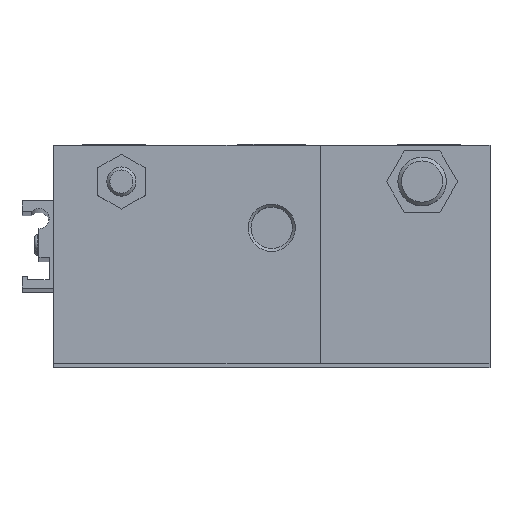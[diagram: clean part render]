
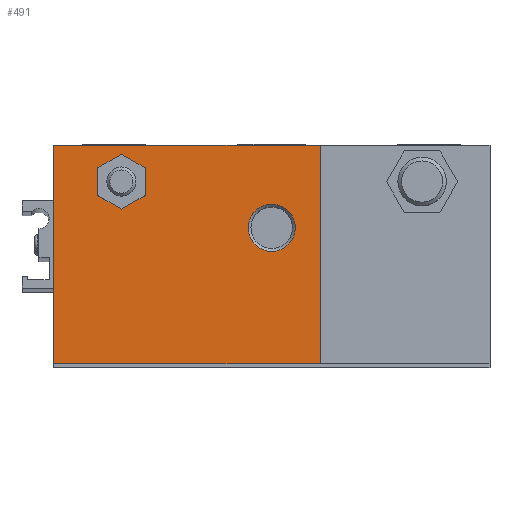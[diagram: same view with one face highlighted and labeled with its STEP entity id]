
A CAD part, top view. The second image highlights one B-rep face of the part: STEP entity #491.
In plain terms, the highlighted planar face has unit normal (0, 0, 1) as drawn and (0, 0, -1) by its records, which use the part's own axes.
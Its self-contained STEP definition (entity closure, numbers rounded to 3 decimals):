
#491 = ADVANCED_FACE( '', ( #1107, #1108, #1109 ), #1110, .F. );
#1107 = FACE_BOUND( '', #1819, .T. );
#1108 = FACE_BOUND( '', #1820, .T. );
#1109 = FACE_OUTER_BOUND( '', #1821, .T. );
#1110 = PLANE( '', #1822 );
#1819 = EDGE_LOOP( '', ( #2905, #2906, #2907, #2908, #2909, #2910 ) );
#1820 = EDGE_LOOP( '', ( #2911 ) );
#1821 = EDGE_LOOP( '', ( #2912, #2913, #2914, #2915 ) );
#1822 = AXIS2_PLACEMENT_3D( '', #2916, #2917, #2918 );
#2905 = ORIENTED_EDGE( '', *, *, #3771, .T. );
#2906 = ORIENTED_EDGE( '', *, *, #3834, .T. );
#2907 = ORIENTED_EDGE( '', *, *, #3553, .T. );
#2908 = ORIENTED_EDGE( '', *, *, #3795, .T. );
#2909 = ORIENTED_EDGE( '', *, *, #3835, .T. );
#2910 = ORIENTED_EDGE( '', *, *, #3836, .T. );
#2911 = ORIENTED_EDGE( '', *, *, #3521, .T. );
#2912 = ORIENTED_EDGE( '', *, *, #3837, .T. );
#2913 = ORIENTED_EDGE( '', *, *, #3838, .F. );
#2914 = ORIENTED_EDGE( '', *, *, #3680, .F. );
#2915 = ORIENTED_EDGE( '', *, *, #3829, .T. );
#2916 = CARTESIAN_POINT( '', ( 10., 45., -494.5 ) );
#2917 = DIRECTION( '', ( 0., 0., 1. ) );
#2918 = DIRECTION( '', ( 1., 0., 0. ) );
#3521 = EDGE_CURVE( '', #4062, #4062, #4063, .T. );
#3553 = EDGE_CURVE( '', #4115, #4116, #4117, .T. );
#3680 = EDGE_CURVE( '', #4318, #4319, #4320, .T. );
#3771 = EDGE_CURVE( '', #4462, #4463, #4464, .T. );
#3795 = EDGE_CURVE( '', #4116, #4497, #4498, .T. );
#3829 = EDGE_CURVE( '', #4318, #4548, #4550, .T. );
#3834 = EDGE_CURVE( '', #4463, #4115, #4557, .T. );
#3835 = EDGE_CURVE( '', #4497, #4558, #4559, .T. );
#3836 = EDGE_CURVE( '', #4558, #4462, #4560, .T. );
#3837 = EDGE_CURVE( '', #4548, #4561, #4562, .T. );
#3838 = EDGE_CURVE( '', #4319, #4561, #4563, .T. );
#4062 = VERTEX_POINT( '', #4834 );
#4063 = CIRCLE( '', #4835, 4.864 );
#4115 = VERTEX_POINT( '', #4897 );
#4116 = VERTEX_POINT( '', #4898 );
#4117 = LINE( '', #4899, #4900 );
#4318 = VERTEX_POINT( '', #5143 );
#4319 = VERTEX_POINT( '', #5144 );
#4320 = LINE( '', #5145, #5146 );
#4462 = VERTEX_POINT( '', #5322 );
#4463 = VERTEX_POINT( '', #5323 );
#4464 = LINE( '', #5324, #5325 );
#4497 = VERTEX_POINT( '', #5369 );
#4498 = LINE( '', #5370, #5371 );
#4548 = VERTEX_POINT( '', #5433 );
#4550 = LINE( '', #5436, #5437 );
#4557 = LINE( '', #5444, #5445 );
#4558 = VERTEX_POINT( '', #5446 );
#4559 = LINE( '', #5447, #5448 );
#4560 = LINE( '', #5449, #5450 );
#4561 = VERTEX_POINT( '', #5451 );
#4562 = LINE( '', #5452, #5453 );
#4563 = LINE( '', #5454, #5455 );
#4834 = CARTESIAN_POINT( '', ( 4.864, 17., -494.5 ) );
#4835 = AXIS2_PLACEMENT_3D( '', #5701, #5702, #5703 );
#4897 = CARTESIAN_POINT( '', ( -35.9, 4.671, -494.5 ) );
#4898 = CARTESIAN_POINT( '', ( -31., 1.842, -494.5 ) );
#4899 = CARTESIAN_POINT( '', ( -18.938, -5.122, -494.5 ) );
#4900 = VECTOR( '', #5750, 1000. );
#5143 = CARTESIAN_POINT( '', ( 10., 45., -494.5 ) );
#5144 = CARTESIAN_POINT( '', ( -45., 45., -494.5 ) );
#5145 = CARTESIAN_POINT( '', ( 10., 45., -494.5 ) );
#5146 = VECTOR( '', #5931, 1000. );
#5322 = CARTESIAN_POINT( '', ( -31., 13.158, -494.5 ) );
#5323 = CARTESIAN_POINT( '', ( -35.9, 10.329, -494.5 ) );
#5324 = CARTESIAN_POINT( '', ( 13.538, 38.872, -494.5 ) );
#5325 = VECTOR( '', #6053, 1000. );
#5369 = CARTESIAN_POINT( '', ( -26.1, 4.671, -494.5 ) );
#5370 = CARTESIAN_POINT( '', ( 18.438, 30.385, -494.5 ) );
#5371 = VECTOR( '', #6074, 1000. );
#5433 = CARTESIAN_POINT( '', ( 10., 0., -494.5 ) );
#5436 = CARTESIAN_POINT( '', ( 10., 45., -494.5 ) );
#5437 = VECTOR( '', #6115, 1000. );
#5444 = CARTESIAN_POINT( '', ( -35.9, 45., -494.5 ) );
#5445 = VECTOR( '', #6122, 1000. );
#5446 = CARTESIAN_POINT( '', ( -26.1, 10.329, -494.5 ) );
#5447 = CARTESIAN_POINT( '', ( -26.1, 45., -494.5 ) );
#5448 = VECTOR( '', #6123, 1000. );
#5449 = CARTESIAN_POINT( '', ( -14.038, 3.365, -494.5 ) );
#5450 = VECTOR( '', #6124, 1000. );
#5451 = CARTESIAN_POINT( '', ( -45., 0., -494.5 ) );
#5452 = CARTESIAN_POINT( '', ( 10., 0., -494.5 ) );
#5453 = VECTOR( '', #6125, 1000. );
#5454 = CARTESIAN_POINT( '', ( -45., 45., -494.5 ) );
#5455 = VECTOR( '', #6126, 1000. );
#5701 = CARTESIAN_POINT( '', ( 0., 17., -494.5 ) );
#5702 = DIRECTION( '', ( 0., 0., 1. ) );
#5703 = DIRECTION( '', ( 1., 0., 0. ) );
#5750 = DIRECTION( '', ( 0.866, -0.5, 0. ) );
#5931 = DIRECTION( '', ( -1., 0., 0. ) );
#6053 = DIRECTION( '', ( -0.866, -0.5, 0. ) );
#6074 = DIRECTION( '', ( 0.866, 0.5, 0. ) );
#6115 = DIRECTION( '', ( 0., -1., 0. ) );
#6122 = DIRECTION( '', ( 0., -1., 0. ) );
#6123 = DIRECTION( '', ( 0., 1., 0. ) );
#6124 = DIRECTION( '', ( -0.866, 0.5, 0. ) );
#6125 = DIRECTION( '', ( -1., 0., 0. ) );
#6126 = DIRECTION( '', ( 0., -1., 0. ) );
